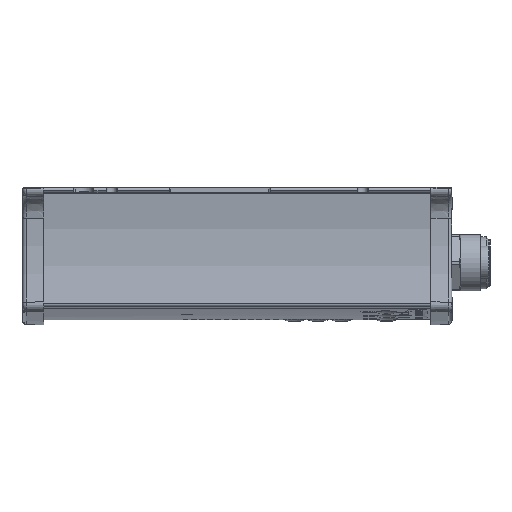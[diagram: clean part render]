
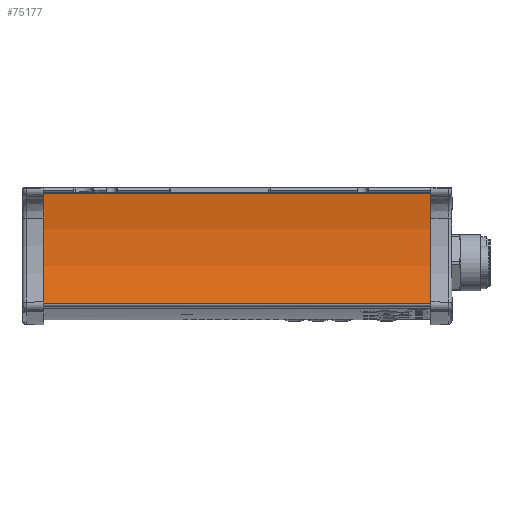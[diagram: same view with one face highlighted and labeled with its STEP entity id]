
A CAD part, left-side view. The second image highlights one B-rep face of the part: STEP entity #75177.
In plain terms, the highlighted cylindrical face has radius 109.9 mm (diameter 219.8 mm), a partial arc.
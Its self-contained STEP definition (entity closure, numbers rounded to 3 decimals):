
#10878 = AXIS2_PLACEMENT_3D ( 'NONE', #104708, #119374, #158367 ) ;
#13093 = VERTEX_POINT ( 'NONE', #75204 ) ;
#14491 = EDGE_CURVE ( 'NONE', #42648, #47528, #66193, .T. ) ;
#15036 = DIRECTION ( 'NONE',  ( 0., 1., 0. ) ) ;
#26250 = VECTOR ( 'NONE', #159882, 1000. ) ;
#32740 = AXIS2_PLACEMENT_3D ( 'NONE', #170781, #93581, #104890 ) ;
#42648 = VERTEX_POINT ( 'NONE', #63331 ) ;
#47227 = ORIENTED_EDGE ( 'NONE', *, *, #14491, .T. ) ;
#47528 = VERTEX_POINT ( 'NONE', #140069 ) ;
#56812 = EDGE_CURVE ( 'NONE', #13093, #42648, #69145, .T. ) ;
#63331 = CARTESIAN_POINT ( 'NONE',  ( -79.662, -1., -1.548 ) ) ;
#64026 = VECTOR ( 'NONE', #122019, 1000. ) ;
#66193 = CIRCLE ( 'NONE', #10878, 109.9 ) ;
#69145 = LINE ( 'NONE', #95205, #64026 ) ;
#72455 = CARTESIAN_POINT ( 'NONE',  ( -81.929, -175., -49.24 ) ) ;
#74724 = EDGE_CURVE ( 'NONE', #13093, #153304, #107409, .T. ) ;
#75177 = ADVANCED_FACE ( 'NONE', ( #77346 ), #104260, .F. ) ;
#75204 = CARTESIAN_POINT ( 'NONE',  ( -79.662, -175., -1.548 ) ) ;
#77346 = FACE_OUTER_BOUND ( 'NONE', #91888, .T. ) ;
#88725 = CARTESIAN_POINT ( 'NONE',  ( -187.95, -175., -20.3 ) ) ;
#91888 = EDGE_LOOP ( 'NONE', ( #47227, #157116, #102588, #124185 ) ) ;
#93581 = DIRECTION ( 'NONE',  ( 0., 1., 0. ) ) ;
#95205 = CARTESIAN_POINT ( 'NONE',  ( -79.662, -175., -1.548 ) ) ;
#102588 = ORIENTED_EDGE ( 'NONE', *, *, #74724, .F. ) ;
#104260 = CYLINDRICAL_SURFACE ( 'NONE', #107705, 109.9 ) ;
#104708 = CARTESIAN_POINT ( 'NONE',  ( -187.95, -1., -20.3 ) ) ;
#104890 = DIRECTION ( 'NONE',  ( 0., 0., 1. ) ) ;
#107409 = CIRCLE ( 'NONE', #32740, 109.9 ) ;
#107705 = AXIS2_PLACEMENT_3D ( 'NONE', #88725, #15036, #148288 ) ;
#119374 = DIRECTION ( 'NONE',  ( 0., 1., 0. ) ) ;
#122019 = DIRECTION ( 'NONE',  ( 0., 1., 0. ) ) ;
#124185 = ORIENTED_EDGE ( 'NONE', *, *, #56812, .T. ) ;
#132118 = LINE ( 'NONE', #145140, #26250 ) ;
#140069 = CARTESIAN_POINT ( 'NONE',  ( -81.929, -1., -49.24 ) ) ;
#145140 = CARTESIAN_POINT ( 'NONE',  ( -81.929, -175., -49.24 ) ) ;
#148288 = DIRECTION ( 'NONE',  ( 0., 0., -1. ) ) ;
#153304 = VERTEX_POINT ( 'NONE', #72455 ) ;
#157116 = ORIENTED_EDGE ( 'NONE', *, *, #170691, .F. ) ;
#158367 = DIRECTION ( 'NONE',  ( 0., 0., 1. ) ) ;
#159882 = DIRECTION ( 'NONE',  ( 0., 1., 0. ) ) ;
#170691 = EDGE_CURVE ( 'NONE', #153304, #47528, #132118, .T. ) ;
#170781 = CARTESIAN_POINT ( 'NONE',  ( -187.95, -175., -20.3 ) ) ;
